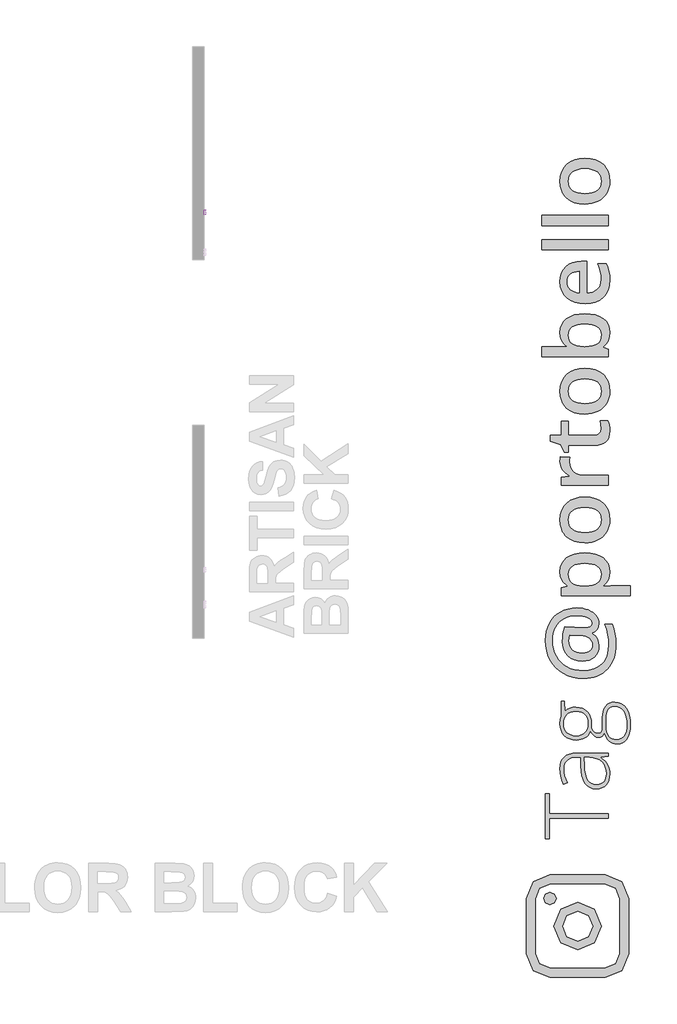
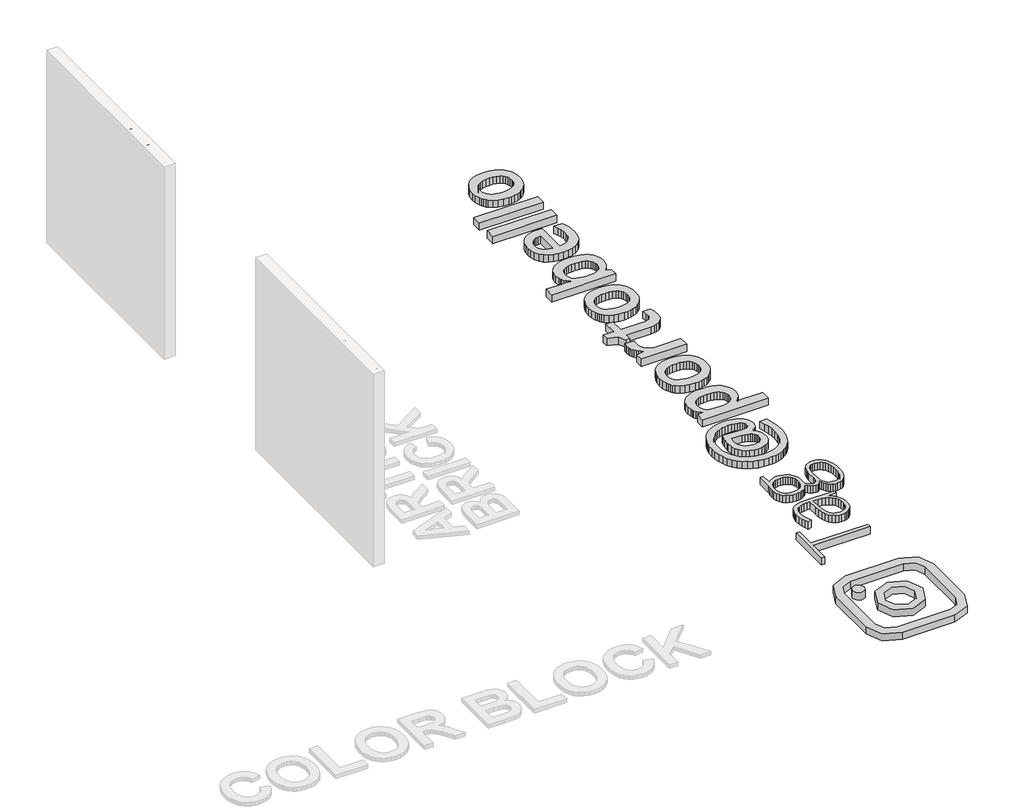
# One storey, part 4 of 9: 4 proxies.
"""IFC4 building model written with IfcOpenShell, lengths in millimetres."""

from ifc_helpers import new_model, si_unit, frame, origin, origin_with_axes, place, context, project, spatial, polyline, outline, extrude, transform, mapped, element, save
from components import generic_models_d67f6705

model = new_model("IFC4")

# Units and contexts
model_context = context("Model", 3, world=origin())
ifc_project = project(units=[si_unit("LENGTHUNIT", "METRE", prefix="MILLI")], contexts=[model_context])

# Site, building, storey
site = spatial("IfcSite", under=ifc_project)
building = spatial("IfcBuilding", under=site)
storey = spatial("IfcBuildingStorey", under=building, Name="PORTOBELLO - SHOWROOM", Elevation=0.0)

# Proxies
placement = place(None, origin())
generic_models_shape = generic_models_d67f6705(model_context)
element("IfcBuildingElementProxy", 1, Name="Blks_Instagram1 : Único 2", ObjectType="Blks_Instagram1 : Único 2", at=placement, inside=storey, context=model_context, shape_type="MappedRepresentation", body=[
    mapped(generic_models_shape, transform((-14049.7127533, -9592.2294159, 0.0), x_axis=(-1.0, 0.0, 0.0), y_axis=(0.0, -1.0, 0.0), z_axis=(0.0, 0.0, 1.0))),
])
element("IfcBuildingElementProxy", 2, Name="10mm Arial Narrow", ObjectType="10mm Arial Narrow", at=placement, inside=storey, context=model_context, shape_type="SweptSolid", body=[
    extrude(outline(polyline([(-576.4830429, 2548.8308244), (-576.4830429, 2649.5494281), (-545.1861582, 2649.5494281), (-528.8904567, 2647.6711074), (-517.4174705, 2638.1906642), (-513.1277921, 2621.1715554), (-514.9141005, 2609.0957299), (-520.2730257, 2599.4693361), (-530.0168145, 2593.1680777), (-544.9577138, 2591.0676582), (-566.7360812, 2591.0676582), (-566.7360812, 2548.8308244), (-576.4830429, 2548.8308244)]), holes=[polyline([(-566.7360812, 2602.4391135), (-543.7647263, 2602.4391135), (-527.9005309, 2606.9699277), (-522.8747538, 2620.6385184), (-525.3495682, 2630.8042949), (-531.3271971, 2636.6042447), (-543.9931707, 2638.1779729), (-566.7360812, 2638.1779729), (-566.7360812, 2602.4391135)])]), frame((-18784.5594677, 0.0, 0.0), z_axis=(1.0, 0.0, 0.0), x_axis=(0.0, 1.0, 0.0)), (0.0, 0.0, 1.0), 20.0),
    extrude(outline(polyline([(-505.0053241, 2585.3819306), (-503.0508552, 2601.9727061), (-497.1874486, 2613.9247909), (-488.3288819, 2621.1493455), (-477.3889327, 2623.5575304), (-466.5758971, 2621.1493455), (-457.6919477, 2613.9247909), (-451.752393, 2602.1630765), (-449.7725414, 2586.143412), (-451.7174917, 2568.9815254), (-457.5523428, 2556.8390702), (-466.401391, 2549.6145156), (-477.3889327, 2547.2063308), (-488.2495609, 2549.6208613), (-497.1239918, 2556.8644529), (-503.034991, 2568.8228834), (-505.0053241, 2585.3819306)]), holes=[polyline([(-495.2583624, 2585.4073133), (-493.9543256, 2572.8555619), (-490.042215, 2563.9843038), (-484.2010182, 2558.7110453), (-477.1097229, 2556.9532924), (-470.3896497, 2558.7269095), (-464.6975764, 2564.0477606), (-460.8140214, 2572.9348829), (-459.519503, 2585.4073133), (-460.8235399, 2597.9209906), (-464.7356505, 2606.7795573), (-470.5768472, 2612.0528159), (-477.6681426, 2613.8105687), (-484.4358083, 2612.0432974), (-490.1183631, 2606.7414833), (-493.9733626, 2597.873398), (-495.2583624, 2585.4073133)])]), frame((-18784.5594677, 0.0, 0.0), z_axis=(1.0, 0.0, 0.0), x_axis=(0.0, 1.0, 0.0)), (0.0, 0.0, 1.0), 20.0),
    extrude(outline(polyline([(-378.2948226, 2556.9532924), (-376.670329, 2547.2063308), (-384.0313156, 2547.2063308), (-392.3060799, 2549.3257873), (-396.6211411, 2555.1257371), (-397.7887459, 2569.7715623), (-397.7887459, 2612.1860751), (-405.9112139, 2612.1860751), (-405.9112139, 2615.4350623), (-407.5357075, 2610.5615815), (-415.0997559, 2612.1860751), (-421.1789156, 2609.8635569), (-425.0497793, 2603.3782738), (-427.0296308, 2587.9709673), (-427.0296308, 2548.8308244), (-436.7765925, 2548.8308244), (-436.7765925, 2621.9330368), (-427.0296308, 2621.9330368), (-427.0296308, 2612.2368406), (-420.7854835, 2621.3238517), (-414.3890399, 2623.5575304), (-405.9112139, 2621.9330368), (-397.7887459, 2621.9330368), (-397.7887459, 2638.1779729), (-388.0417842, 2646.3004409), (-388.0417842, 2621.9330368), (-378.2948226, 2621.9330368), (-378.2948226, 2612.1860751), (-388.0417842, 2612.1860751), (-388.0417842, 2567.5378836), (-387.178772, 2559.5423291), (-382.5591183, 2556.9532924), (-378.2948226, 2556.9532924)])), frame((-18784.5594677, 0.0, 0.0), z_axis=(1.0, 0.0, 0.0), x_axis=(0.0, 1.0, 0.0)), (0.0, 0.0, 1.0), 20.0),
    extrude(outline(polyline([(-371.7968481, 2585.3819306), (-369.8423793, 2601.9727061), (-363.9789726, 2613.9247909), (-355.1204059, 2621.1493455), (-344.1804568, 2623.5575304), (-333.3674212, 2621.1493455), (-324.4834718, 2613.9247909), (-318.543917, 2602.1630765), (-316.5640654, 2586.143412), (-318.5090158, 2568.9815254), (-324.3438669, 2556.8390702), (-333.1929151, 2549.6145156), (-344.1804568, 2547.2063308), (-355.041085, 2549.6208613), (-363.9155159, 2556.8644529), (-369.8265151, 2568.8228834), (-371.7968481, 2585.3819306)]), holes=[polyline([(-362.0498865, 2585.4073133), (-360.7458496, 2572.8555619), (-356.833739, 2563.9843038), (-350.9925423, 2558.7110453), (-343.9012469, 2556.9532924), (-337.1811738, 2558.7269095), (-331.4891005, 2564.0477606), (-327.6055454, 2572.9348829), (-326.3110271, 2585.4073133), (-327.6150639, 2597.9209906), (-331.5271745, 2606.7795573), (-337.3683713, 2612.0528159), (-344.4596666, 2613.8105687), (-351.2273324, 2612.0432974), (-356.9098872, 2606.7414833), (-360.7648867, 2597.873398), (-362.0498865, 2585.4073133)])]), frame((-18784.5594677, 0.0, 0.0), z_axis=(1.0, 0.0, 0.0), x_axis=(0.0, 1.0, 0.0)), (0.0, 0.0, 1.0), 20.0),
    extrude(outline(polyline([(-293.8211549, 2548.8308244), (-303.5681166, 2548.8308244), (-303.5681166, 2649.5494281), (-293.8211549, 2649.5494281), (-293.8211549, 2614.140544), (-286.4220942, 2621.2223208), (-277.2208608, 2623.5575304), (-264.3391342, 2619.3566915), (-255.0617527, 2606.6272611), (-251.5843211, 2585.9403503), (-253.5165801, 2569.4860068), (-259.3133571, 2557.2832677), (-267.6864794, 2549.725565), (-277.3477744, 2547.2063308), (-286.6886127, 2549.8207502), (-293.8211549, 2557.5878602), (-293.8211549, 2548.8308244)]), holes=[polyline([(-293.8211549, 2585.9403503), (-291.7397725, 2568.692797), (-285.8509831, 2559.9611439), (-277.3985398, 2556.9532924), (-271.4558122, 2558.7427737), (-266.2174549, 2564.1112174), (-261.3312827, 2585.5342269), (-266.0397759, 2606.9699277), (-271.2844789, 2612.1004085), (-277.6016015, 2613.8105687), (-283.5792304, 2612.0210875), (-288.8715259, 2606.6526438), (-293.8211549, 2585.9403503)])]), frame((-18784.5594677, 0.0, 0.0), z_axis=(1.0, 0.0, 0.0), x_axis=(0.0, 1.0, 0.0)), (0.0, 0.0, 1.0), 20.0),
    extrude(outline(polyline([(-199.6005256, 2571.5737349), (-189.8535639, 2569.9492413), (-193.5530943, 2560.0626747), (-199.3720812, 2552.9428238), (-207.0757345, 2548.640454), (-216.4292641, 2547.2063308), (-228.0228181, 2549.6208613), (-237.1669403, 2556.8644529), (-243.1064951, 2568.6705872), (-245.0863466, 2584.7727455), (-243.0969765, 2601.4396692), (-237.1288662, 2613.6201984), (-228.1148304, 2621.0731974), (-216.9876837, 2623.5575304), (-206.3047346, 2621.158864), (-197.5572172, 2613.962865), (-191.7223662, 2602.2233604), (-189.7774158, 2586.1941774), (-189.8535639, 2582.9451902), (-235.339385, 2582.9451902), (-229.3363734, 2563.5020323), (-223.4063372, 2558.5904774), (-216.3023505, 2556.9532924), (-206.1238827, 2560.608403), (-199.6005256, 2571.5737349)]), holes=[polyline([(-234.6794345, 2592.6921518), (-199.6005256, 2592.6921518), (-203.8648213, 2606.9572363), (-209.6901539, 2612.0972356), (-216.9115356, 2613.8105687), (-229.1206204, 2608.0994584), (-234.6794345, 2592.6921518)])]), frame((-18784.5594677, 0.0, 0.0), z_axis=(1.0, 0.0, 0.0), x_axis=(0.0, 1.0, 0.0)), (0.0, 0.0, 1.0), 20.0),
    extrude(outline(polyline([(-18764.5594677, -167.1106534), (-18764.5594677, -176.8576151), (-18784.5594677, -176.8576151), (-18784.5594677, -167.1106534), (-18764.5594677, -167.1106534)])), frame((0.0, 0.0, 2548.8308244), z_axis=(0.0, 0.0, 1.0), x_axis=(1.0, 0.0, 0.0)), (0.0, 0.0, 1.0), 100.7186038),
    extrude(outline(polyline([(-18764.5594677, -141.1187557), (-18764.5594677, -150.8657173), (-18784.5594677, -150.8657173), (-18784.5594677, -141.1187557), (-18764.5594677, -141.1187557)])), frame((0.0, 0.0, 2548.8308244), z_axis=(0.0, 0.0, 1.0), x_axis=(1.0, 0.0, 0.0)), (0.0, 0.0, 1.0), 100.7186038),
    extrude(outline(polyline([(-129.7473004, 2585.3819306), (-127.7928315, 2601.9727061), (-121.9294249, 2613.9247909), (-113.0708582, 2621.1493455), (-102.1309091, 2623.5575304), (-91.3178735, 2621.1493455), (-82.433924, 2613.9247909), (-76.4943693, 2602.1630765), (-74.5145177, 2586.143412), (-76.4594681, 2568.9815254), (-82.2943191, 2556.8390702), (-91.1433673, 2549.6145156), (-102.1309091, 2547.2063308), (-112.9915372, 2549.6208613), (-121.8659681, 2556.8644529), (-127.7769673, 2568.8228834), (-129.7473004, 2585.3819306)]), holes=[polyline([(-120.0003388, 2585.4073133), (-118.6963019, 2572.8555619), (-114.7841913, 2563.9843038), (-108.9429946, 2558.7110453), (-101.8516992, 2556.9532924), (-95.131626, 2558.7269095), (-89.4395527, 2564.0477606), (-85.5559977, 2572.9348829), (-84.2614794, 2585.4073133), (-85.5655162, 2597.9209906), (-89.4776268, 2606.7795573), (-95.3188236, 2612.0528159), (-102.4101189, 2613.8105687), (-109.1777847, 2612.0432974), (-114.8603394, 2606.7414833), (-118.7153389, 2597.873398), (-120.0003388, 2585.4073133)])]), frame((-18784.5594677, 0.0, 0.0), z_axis=(1.0, 0.0, 0.0), x_axis=(0.0, 1.0, 0.0)), (0.0, 0.0, 1.0), 20.0),
])
element("IfcBuildingElementProxy", 3, Name="80mm OpenSans Bold", ObjectType="80mm OpenSans Bold", at=placement, inside=storey, context=model_context, shape_type="SweptSolid", body=[
    extrude(outline(polyline([(-14059.8926934, -5560.8938135), (-14021.7870787, -5562.4411734), (-13985.3490072, -5567.083253), (-13950.5784789, -5574.8200523), (-13917.4754937, -5585.6515714), (-13886.9940065, -5599.292375), (-13860.0879723, -5615.4570276), (-13836.7573909, -5634.1455293), (-13817.0022625, -5655.3578802), (-13801.2807857, -5678.7034844), (-13790.0511595, -5703.7917464), (-13783.3133837, -5730.6226661), (-13781.0674585, -5759.1962435), (-13786.7761648, -5799.8181959), (-13793.9120477, -5817.9658728), (-13803.9022838, -5834.6713502), (-13816.3262315, -5849.3487346), (-13830.7632493, -5861.4121324), (-13847.2133372, -5870.8615437), (-13865.6764953, -5877.6969684), (-13865.6764953, -5884.4272327), (-13828.6600417, -5914.5932387), (-13802.2197177, -5951.2491424), (-13786.3555233, -5993.6137525), (-13781.0674585, -6040.9058774), (-13784.620377, -6083.5709457), (-13795.2791326, -6121.4286823), (-13813.0437253, -6154.4790873), (-13837.9141551, -6182.7221607), (-13868.8538411, -6205.3316423), (-13904.8262023, -6221.481272), (-13945.8312389, -6231.1710499), (-13991.8689508, -6234.4009758), (-14045.0124997, -6230.1194461), (-14092.9130526, -6217.2748568), (-14135.5706094, -6195.8672082), (-14172.9851702, -6165.8965), (-14203.4291001, -6128.7147944), (-14225.1747643, -6085.6741533), (-14238.2221628, -6036.7745768), (-14242.5712956, -5982.0160649), (-14240.7385004, -5937.6984764), (-14235.2401149, -5888.8740144), (-14226.4967805, -5840.6504689), (-14214.9291387, -5798.1356298), (-13963.7460607, -5810.3943255), (-13951.0066319, -5810.3943255), (-13913.1488952, -5806.7888267), (-13886.1076548, -5795.9723305), (-13876.6432206, -5787.8599584), (-13869.8829105, -5777.9448369), (-13864.4746624, -5752.7063458), (-13867.9374435, -5731.9521938), (-13878.3257867, -5713.4364555), (-13895.639692, -5697.159131), (-13919.8791595, -5683.1202204), (-13949.4818063, -5671.8154796), (-13982.8852498, -5663.7406647), (-14020.0894898, -5658.8957758), (-14061.0945263, -5657.2808128), (-14106.1857948, -5659.6995016), (-14148.437733, -5666.9555677), (-14187.850341, -5679.0490114), (-14224.4236187, -5695.9798325), (-14257.5641612, -5717.3724583), (-14286.6785634, -5742.851316), (-14311.7668254, -5772.4164055), (-14332.8289471, -5806.067727), (-14349.4968672, -5843.0691577), (-14361.4025245, -5882.6845749), (-14368.5459189, -5924.9139788), (-14370.9270503, -5969.7573692), (-14367.9374909, -6026.7317606), (-14358.9688129, -6079.8753095), (-14344.0210161, -6129.1880161), (-14323.0941005, -6174.6698802), (-14296.6162192, -6215.6598939), (-14265.0155252, -6251.4970489), (-14228.2920184, -6282.1813454), (-14186.4456988, -6307.7127833), (-14140.2577578, -6327.7984158), (-14090.5093868, -6342.1452961), (-14037.2005858, -6350.7534243), (-13980.3313548, -6353.6228004), (-13906.15573, -6348.2671325), (-13841.0689665, -6332.2001288), (-13811.9339078, -6320.149876), (-13785.0710644, -6305.4217893), (-13760.4804363, -6288.0158686), (-13738.1620236, -6267.932114), (-13718.3036127, -6245.3470446), (-13701.0929898, -6220.4371797), (-13686.5301551, -6193.2025192), (-13674.6151086, -6163.6430633), (-13658.7283798, -6097.5497647), (-13653.4328035, -6022.157284), (-13656.5275233, -5960.4431642), (-13665.8116825, -5897.4070281), (-13681.2852812, -5833.0488758), (-13702.9483194, -5767.3687073), (-13612.8108512, -5767.3687073), (-13592.1994168, -5826.5890239), (-13577.4769637, -5888.3932813), (-13568.6434918, -5952.7814794), (-13565.6990012, -6019.7536182), (-13567.3947123, -6069.3686609), (-13572.4818457, -6116.1781748), (-13580.9604013, -6160.1821601), (-13592.8303791, -6201.3806166), (-13608.0917792, -6239.7735445), (-13626.7446015, -6275.3609436), (-13648.7888461, -6308.1428141), (-13674.2245129, -6338.1191559), (-13702.6948078, -6364.9068847), (-13733.8429366, -6388.1229163), (-13767.6688994, -6407.7672508), (-13804.1726962, -6423.8398881), (-13843.3543269, -6436.3408282), (-13885.2137915, -6445.2700712), (-13929.7510901, -6450.6276169), (-13976.9662227, -6452.4134655), (-14046.0340577, -6448.5525773), (-14111.1809128, -6436.9699126), (-14172.4067881, -6417.6654715), (-14229.7116835, -6390.639254), (-14281.8111401, -6356.7625889), (-14327.420699, -6316.906805), (-14366.5403602, -6271.0719024), (-14399.1701237, -6219.2578811), (-14424.8818365, -6162.6365282), (-14443.2473456, -6102.3796307), (-14454.2666511, -6038.4871887), (-14457.9397529, -5970.9592021), (-14454.875079, -5912.7379091), (-14445.6810573, -5857.7765879), (-14430.3576877, -5806.0752384), (-14408.9049702, -5757.6338607), (-14381.7886152, -5713.4514784), (-14349.4743329, -5674.5271151), (-14311.9621232, -5640.8607707), (-14269.2519862, -5612.4524453), (-14222.1852049, -5589.8955439), (-14171.6030623, -5573.7834715), (-14117.5055585, -5564.116228), (-14059.8926934, -5560.8938135)]), holes=[polyline([(-13989.9460181, -6129.120413), (-13960.5386691, -6127.5317401), (-13935.0523, -6122.7657215), (-13913.4869107, -6114.8223571), (-13895.8425013, -6103.7016469), (-13882.1190718, -6089.403591), (-13872.3166221, -6071.9281894), (-13866.4351523, -6051.275442), (-13864.4746624, -6027.4453488), (-13866.9384199, -6002.161789), (-13874.3296922, -5979.9128573), (-13886.6484796, -5960.6985537), (-13903.8947818, -5944.5188781), (-13926.068599, -5931.3738307), (-13953.1699311, -5921.2634113), (-13985.1987781, -5914.1876201), (-14022.1551401, -5910.1464569), (-14150.7512614, -5903.4161926), (-14157.6017089, -5939.7115465), (-14159.8851915, -5978.4105662), (-14157.0233268, -6012.0243303), (-14148.437733, -6041.7171146), (-14134.1284099, -6067.4889191), (-14114.0953576, -6089.3397437), (-14089.1648362, -6106.7437865), (-14060.1631058, -6119.1752456), (-14027.0901665, -6126.6341211), (-13989.9460181, -6129.120413)])]), origin_with_axes(), (0.0, 0.0, 1.0), 100.0),
    extrude(outline(polyline([(-13642.6163074, -5102.2743754), (-13647.8142347, -5155.8310544), (-13663.4080167, -5203.0480648), (-13689.3976534, -5243.9254066), (-13725.7831447, -5278.4630799), (-13725.7831447, -5286.1548105), (-13631.7998112, -5278.4630799), (-13381.0974663, -5278.4630799), (-13381.0974663, -5407.2995677), (-14257.9547568, -5407.2995677), (-14257.9547568, -5302.9804712), (-14180.7970841, -5284.9529776), (-14180.7970841, -5278.4630799), (-14202.4864124, -5262.632687), (-14221.2838302, -5244.9469646), (-14237.1893376, -5225.4059127), (-14250.2029346, -5204.0095311), (-14260.3246211, -5180.7578201), (-14267.5543972, -5155.6507795), (-14273.3382181, -5099.8707096), (-14268.177848, -5047.0651761), (-14252.6967379, -5000.4190363), (-14226.8948876, -4959.9322902), (-14190.7722972, -4925.6049377), (-14145.3355018, -4898.2632391), (-14091.5910364, -4878.7334543), (-14029.538901, -4867.0155834), (-13959.1790956, -4863.1096265), (-13888.6465268, -4867.0831865), (-13826.3164675, -4879.0038667), (-13772.1889179, -4898.871667), (-13726.2638778, -4926.6865874), (-13689.6680658, -4961.5021844), (-13663.5282, -5002.3720148), (-13647.8442805, -5049.2960785), (-13642.6163074, -5102.2743754)]), holes=[polyline([(-14165.6539894, -5133.7623976), (-14162.8597279, -5168.8484071), (-14154.4769434, -5198.8716955), (-14140.5056358, -5223.8322627), (-14120.9458052, -5243.7301088), (-14095.2566268, -5258.9257836), (-14062.8972757, -5269.7798371), (-14023.867752, -5276.2922692), (-13978.1680556, -5278.4630799), (-13959.1790956, -5278.4630799), (-13907.8307846, -5276.3148035), (-13864.1141125, -5269.8699746), (-13828.0290794, -5259.1285929), (-13799.5756853, -5244.0906587), (-13778.0178075, -5224.1702782), (-13762.6193233, -5198.781558), (-13753.3802329, -5167.924498), (-13750.300536, -5131.5990984), (-13753.7107369, -5100.6744353), (-13763.9413395, -5073.520523), (-13780.9923439, -5050.1373615), (-13804.8637501, -5030.5249507), (-13835.0297561, -5015.0137947), (-13870.9645601, -5003.9343976), (-13912.6681621, -4997.2867593), (-13960.140562, -4995.0708799), (-14007.7707024, -4997.2717364), (-14049.2264264, -5003.8743059), (-14084.5077337, -5014.8785885), (-14113.6146245, -5030.2845841), (-14136.3818466, -5049.9570866), (-14152.6441482, -5073.7608896), (-14162.4015291, -5101.6959933), (-14165.6539894, -5133.7623976)])]), origin_with_axes(), (0.0, 0.0, 1.0), 100.0),
    extrude(outline(polyline([(-13959.1790956, -4154.9896764), (-13888.6465268, -4159.797008), (-13826.3164675, -4174.2190029), (-13772.1889179, -4198.2556611), (-13726.2638778, -4231.9069826), (-13706.6589785, -4252.0789968), (-13689.6680658, -4274.1363864), (-13675.2911396, -4298.0791514), (-13663.5282, -4323.9072918), (-13647.8442805, -4381.2196986), (-13642.6163074, -4446.073607), (-13645.0274846, -4487.7246287), (-13652.2610165, -4526.8668243), (-13664.3169028, -4563.5001937), (-13681.1951437, -4597.6247368), (-13702.5727466, -4628.6019801), (-13728.1267188, -4655.7934496), (-13757.8570604, -4679.1991455), (-13791.7637714, -4698.8190678), (-13829.2234009, -4714.3302238), (-13869.6124981, -4725.4096209), (-13912.931063, -4732.0572592), (-13959.1790956, -4734.2731386), (-14029.1483053, -4729.5033642), (-14090.9901199, -4715.1940412), (-14144.7045395, -4691.3451694), (-14190.2915641, -4657.9567489), (-14209.7556236, -4637.8992843), (-14226.6244752, -4615.8850856), (-14240.8981189, -4591.9141526), (-14252.5765546, -4565.9864855), (-14268.1478022, -4508.2609486), (-14273.3382181, -4442.7084748), (-14268.0201075, -4379.8150564), (-14252.0657756, -4323.8171543), (-14225.4752225, -4274.7147685), (-14188.2484481, -4232.507899), (-14142.0229499, -4198.5936766), (-14088.436225, -4174.369232), (-14027.4882736, -4159.8345653), (-13959.1790956, -4154.9896764)]), holes=[polyline([(-13959.1790956, -4601.5907854), (-13910.2231832, -4599.127028), (-13867.7947258, -4591.7357556), (-13831.8937234, -4579.4169683), (-13802.5201759, -4562.170666), (-13779.6740835, -4539.9968488), (-13763.355446, -4512.8955167), (-13753.5642635, -4480.8666697), (-13750.300536, -4443.9103077), (-13753.5642635, -4407.2919613), (-13763.355446, -4375.556061), (-13779.6740835, -4348.702607), (-13802.5201759, -4326.7315991), (-13831.8937234, -4309.6430374), (-13867.7947258, -4297.4369219), (-13910.2231832, -4290.1132527), (-13959.1790956, -4287.6720296), (-14007.5716489, -4290.1282756), (-14049.5118617, -4297.4970136), (-14084.999734, -4309.7782436), (-14114.035266, -4326.9719657), (-14136.6184575, -4349.0781798), (-14152.7493086, -4376.0968858), (-14162.4278192, -4408.028084), (-14165.6539894, -4444.8717741), (-14162.3189031, -4483.2628241), (-14152.3136441, -4515.9902365), (-14135.6382125, -4543.0540113), (-14112.2926083, -4564.4541485), (-14082.7124958, -4580.7014272), (-14047.3335395, -4592.3066262), (-14006.1557395, -4599.2697456), (-13959.1790956, -4601.5907854)])]), origin_with_axes(), (0.0, 0.0, 1.0), 100.0),
    extrude(outline(polyline([(-14273.3382181, -3704.3023355), (-14271.9561102, -3669.629456), (-14267.8097867, -3641.5666576), (-14147.6264958, -3653.8253533), (-14152.674194, -3681.2271436), (-14154.3567601, -3709.5904003), (-14151.2169716, -3745.6453875), (-14141.7976062, -3778.0948761), (-14126.0986638, -3806.9388659), (-14104.1201445, -3832.177357), (-14077.1239728, -3852.683631), (-14046.3720732, -3867.3309696), (-14011.8644458, -3876.1193727), (-13973.6010905, -3879.0488404), (-13657.9997686, -3879.0488404), (-13657.9997686, -4007.8853283), (-14257.9547568, -4007.8853283), (-14257.9547568, -3906.9313639), (-14155.7989596, -3889.8653366), (-14155.7989596, -3883.3754389), (-14181.4430693, -3867.5788476), (-14204.2929175, -3849.5137967), (-14224.3485041, -3829.1802862), (-14241.6098293, -3806.578316), (-14255.4909994, -3782.3839173), (-14265.4061209, -3757.2731209), (-14271.3551938, -3731.245927), (-14273.3382181, -3704.3023355)])), origin_with_axes(), (0.0, 0.0, 1.0), 100.0),
    extrude(outline(polyline([(-13750.300536, -3285.3433833), (-13753.9661264, -3237.4503419), (-13764.9628975, -3189.4371172), (-13665.2107661, -3189.4371172), (-13656.3772942, -3214.1948751), (-13649.1062051, -3245.2021642), (-13644.2387818, -3279.9351352), (-13642.6163074, -3315.8699392), (-13645.6509355, -3359.2485958), (-13654.7548197, -3396.8434315), (-13669.9279602, -3428.6544463), (-13691.1703569, -3454.6816402), (-13718.4820098, -3474.9250133), (-13751.8629188, -3489.3845655), (-13791.313084, -3498.0602968), (-13836.8325055, -3500.9522072), (-14165.6539894, -3500.9522072), (-14165.6539894, -3584.5997777), (-14219.7364703, -3584.5997777), (-14264.4446546, -3494.9430427), (-14396.405908, -3450.9559582), (-14396.405908, -3371.3946196), (-14257.9547568, -3371.3946196), (-14257.9547568, -3195.6866483), (-14165.6539894, -3195.6866483), (-14165.6539894, -3371.3946196), (-13841.159104, -3371.3946196), (-13819.4735314, -3369.9148629), (-13800.807564, -3365.4755925), (-13785.1612018, -3358.0768087), (-13772.5344448, -3347.7185113), (-13762.8071097, -3334.9415252), (-13755.8590132, -3320.2866752), (-13750.300536, -3285.3433833)])), origin_with_axes(), (0.0, 0.0, 1.0), 100.0),
    extrude(outline(polyline([(-13959.1790956, -2524.3427853), (-13888.6465268, -2529.1501169), (-13826.3164675, -2543.5721118), (-13772.1889179, -2567.60877), (-13726.2638778, -2601.2600914), (-13706.6589785, -2621.4321057), (-13689.6680658, -2643.4894953), (-13675.2911396, -2667.4322603), (-13663.5282, -2693.2604006), (-13647.8442805, -2750.5728075), (-13642.6163074, -2815.4267158), (-13645.0274846, -2857.0777376), (-13652.2610165, -2896.2199332), (-13664.3169028, -2932.8533025), (-13681.1951437, -2966.9778457), (-13702.5727466, -2997.9550889), (-13728.1267188, -3025.1465585), (-13757.8570604, -3048.5522544), (-13791.7637714, -3068.1721766), (-13829.2234009, -3083.6833326), (-13869.6124981, -3094.7627298), (-13912.931063, -3101.410368), (-13959.1790956, -3103.6262475), (-14029.1483053, -3098.8564731), (-14090.9901199, -3084.54715), (-14144.7045395, -3060.6982782), (-14190.2915641, -3027.3098577), (-14209.7556236, -3007.2523932), (-14226.6244752, -2985.2381945), (-14240.8981189, -2961.2672615), (-14252.5765546, -2935.3395944), (-14268.1478022, -2877.6140574), (-14273.3382181, -2812.0615837), (-14268.0201075, -2749.1681653), (-14252.0657756, -2693.1702632), (-14225.4752225, -2644.0678774), (-14188.2484481, -2601.8610079), (-14142.0229499, -2567.9467855), (-14088.436225, -2543.7223409), (-14027.4882736, -2529.1876742), (-13959.1790956, -2524.3427853)]), holes=[polyline([(-13959.1790956, -2970.9438943), (-13910.2231832, -2968.4801368), (-13867.7947258, -2961.0888644), (-13831.8937234, -2948.7700771), (-13802.5201759, -2931.5237749), (-13779.6740835, -2909.3499577), (-13763.355446, -2882.2486256), (-13753.5642635, -2850.2197786), (-13750.300536, -2813.2634166), (-13753.5642635, -2776.6450702), (-13763.355446, -2744.9091699), (-13779.6740835, -2718.0557158), (-13802.5201759, -2696.084708), (-13831.8937234, -2678.9961463), (-13867.7947258, -2666.7900308), (-13910.2231832, -2659.4663615), (-13959.1790956, -2657.0251384), (-14007.5716489, -2659.4813844), (-14049.5118617, -2666.8501225), (-14084.999734, -2679.1313525), (-14114.035266, -2696.3250746), (-14136.6184575, -2718.4312886), (-14152.7493086, -2745.4499947), (-14162.4278192, -2777.3811928), (-14165.6539894, -2814.2248829), (-14162.3189031, -2852.6159329), (-14152.3136441, -2885.3433453), (-14135.6382125, -2912.4071202), (-14112.2926083, -2933.8072574), (-14082.7124958, -2950.054536), (-14047.3335395, -2961.6597351), (-14006.1557395, -2968.6228545), (-13959.1790956, -2970.9438943)])]), origin_with_axes(), (0.0, 0.0, 1.0), 100.0),
    extrude(outline(polyline([(-14273.3382181, -2069.3288458), (-14268.177848, -2016.5233124), (-14252.6967379, -1969.8771726), (-14226.8948876, -1929.3904265), (-14190.7722972, -1895.063074), (-14145.3355018, -1867.7213753), (-14091.5910364, -1848.1915906), (-14029.538901, -1836.4737197), (-13959.1790956, -1832.5677627), (-13888.4512289, -1836.5187884), (-13826.0160093, -1848.3718655), (-13771.8734367, -1868.1269939), (-13726.0235113, -1895.7841738), (-13689.5328596, -1930.4720761), (-13663.4681083, -1971.3193721), (-13647.8292576, -2018.3260618), (-13642.6163074, -2071.4921451), (-13647.8142347, -2125.1539845), (-13663.4080167, -2172.4461095), (-13689.3976534, -2213.36852), (-13725.7831447, -2247.9212161), (-13725.7831447, -2256.5744131), (-13657.9997686, -2280.1303381), (-13657.9997686, -2376.757704), (-14504.0901366, -2376.757704), (-14504.0901366, -2247.9212161), (-14304.1051406, -2247.9212161), (-14238.1245138, -2250.0845154), (-14182.4796502, -2253.2092809), (-14182.4796502, -2247.9212161), (-14203.774627, -2231.8805025), (-14222.2302736, -2214.044551), (-14237.84659, -2194.4133616), (-14250.6235761, -2172.9869343), (-14260.561232, -2149.765269), (-14267.6595576, -2124.7483659), (-14273.3382181, -2069.3288458)]), holes=[polyline([(-14165.6539894, -2103.2205339), (-14162.8071477, -2138.7647422), (-14154.2666226, -2168.960794), (-14140.0324141, -2193.8086894), (-14120.1045222, -2213.3084284), (-14093.5064576, -2228.0909731), (-14059.2617311, -2238.787286), (-14017.3703428, -2245.397367), (-13967.8322926, -2247.9212161), (-13959.1790956, -2247.9212161), (-13907.8307846, -2245.7729398), (-13864.1141125, -2239.3281108), (-13828.0290794, -2228.5867292), (-13799.5756853, -2213.5487949), (-13778.0178075, -2193.6284145), (-13762.6193233, -2168.2396943), (-13753.3802329, -2137.3826343), (-13750.300536, -2101.0572346), (-13753.6731796, -2069.5466781), (-13763.7911104, -2042.0772846), (-13780.6543284, -2018.6490544), (-13804.2628336, -1999.2619872), (-13834.2410533, -1984.0663124), (-13870.2134145, -1973.2122589), (-13912.1799174, -1966.6998269), (-13960.140562, -1964.5290162), (-14008.3077715, -1966.6960711), (-14050.0526865, -1973.197236), (-14085.3753068, -1984.0325108), (-14114.2756326, -1999.2018956), (-14136.7536637, -2018.7053903), (-14152.8094002, -2042.5429949), (-14162.4428421, -2070.7147094), (-14165.6539894, -2103.2205339)])]), origin_with_axes(), (0.0, 0.0, 1.0), 100.0),
    extrude(outline(polyline([(-13642.6163074, -1403.7537808), (-13647.7917003, -1470.5681791), (-13663.3178792, -1529.6758238), (-13674.9625134, -1556.3396136), (-13689.194844, -1581.076715), (-13706.0148712, -1603.8871281), (-13725.4225948, -1624.7708528), (-13770.7392069, -1659.6315186), (-13823.8827559, -1684.5319942), (-13884.8532417, -1699.4722795), (-13953.6506643, -1704.4523746), (-14024.1832331, -1699.8328294), (-14086.7536589, -1685.9741937), (-14141.3619418, -1662.8764674), (-14188.0080815, -1630.5396507), (-14225.3400163, -1590.1205077), (-14252.0056839, -1542.7758025), (-14268.0050846, -1488.5055352), (-14273.3382181, -1427.3097058), (-14268.8463676, -1370.5907039), (-14255.3708161, -1320.1362561), (-14232.9115636, -1275.9463623), (-14201.4686101, -1238.0210226), (-14162.1536511, -1207.5770927), (-14116.0783819, -1185.8314285), (-14063.2428027, -1172.78403), (-14003.6469133, -1168.4348971), (-13934.9020709, -1168.4348971), (-13934.9020709, -1571.7700215), (-13893.0031711, -1567.8039729), (-13856.242107, -1558.5498595), (-13824.6188785, -1544.0076813), (-13798.1334858, -1524.1774383), (-13777.2065703, -1499.4196803), (-13762.2587735, -1470.0949573), (-13753.2900954, -1436.2032693), (-13750.300536, -1397.7446162), (-13752.8243851, -1345.9756637), (-13760.3959325, -1297.8723015), (-13773.856461, -1249.8891226), (-13794.0472539, -1198.4807199), (-13686.1226587, -1198.4807199), (-13665.8116825, -1245.8629823), (-13652.4713372, -1293.7860696), (-13645.0800648, -1345.3747472), (-13642.6163074, -1403.7537808)]), holes=[polyline([(-14181.0374507, -1427.5500724), (-14178.5812047, -1456.5668257), (-14171.2124666, -1482.5639738), (-14158.9312366, -1505.5415167), (-14141.7375145, -1525.4994545), (-14119.8416212, -1542.0922601), (-14093.4538774, -1554.9744066), (-14062.5742831, -1564.1458939), (-14027.2028383, -1569.6067222), (-14027.2028383, -1295.1080858), (-14062.7695809, -1297.8197213), (-14093.7543356, -1304.7527949), (-14120.1571024, -1315.9073066), (-14141.9778811, -1331.2832563), (-14159.0664428, -1350.414934), (-14171.2725583, -1372.8366292), (-14178.5962276, -1398.548342), (-14181.0374507, -1427.5500724)])]), origin_with_axes(), (0.0, 0.0, 1.0), 100.0),
    extrude(outline(polyline([(-13657.9997686, -894.6573604), (-13657.9997686, -1023.4938483), (-14504.0901366, -1023.4938483), (-14504.0901366, -894.6573604), (-13657.9997686, -894.6573604)])), origin_with_axes(), (0.0, 0.0, 1.0), 100.0),
    extrude(outline(polyline([(-13657.9997686, -586.9881357), (-13657.9997686, -715.8246236), (-14504.0901366, -715.8246236), (-14504.0901366, -586.9881357), (-13657.9997686, -586.9881357)])), origin_with_axes(), (0.0, 0.0, 1.0), 100.0),
    extrude(outline(polyline([(-13959.1790956, 136.9960088), (-13888.6465268, 132.1886771), (-13826.3164675, 117.7666822), (-13772.1889179, 93.730024), (-13726.2638778, 60.0787026), (-13706.6589785, 39.9066884), (-13689.6680658, 17.8492987), (-13675.2911396, -6.0934662), (-13663.5282, -31.9216066), (-13647.8442805, -89.2340135), (-13642.6163074, -154.0879218), (-13645.0274846, -195.7389436), (-13652.2610165, -234.8811391), (-13664.3169028, -271.5145085), (-13681.1951437, -305.6390517), (-13702.5727466, -336.6162949), (-13728.1267188, -363.8077645), (-13757.8570604, -387.2134604), (-13791.7637714, -406.8333826), (-13829.2234009, -422.3445386), (-13869.6124981, -433.4239357), (-13912.931063, -440.071574), (-13959.1790956, -442.2874534), (-14029.1483053, -437.5176791), (-14090.9901199, -423.208356), (-14144.7045395, -399.3594842), (-14190.2915641, -365.9710637), (-14209.7556236, -345.9135992), (-14226.6244752, -323.8994004), (-14240.8981189, -299.9284675), (-14252.5765546, -274.0008003), (-14268.1478022, -216.2752634), (-14273.3382181, -150.7227897), (-14268.0201075, -87.8293713), (-14252.0657756, -31.8314691), (-14225.4752225, 17.2709167), (-14188.2484481, 59.4777861), (-14142.0229499, 93.3920085), (-14088.436225, 117.6164531), (-14027.4882736, 132.1511199), (-13959.1790956, 136.9960088)]), holes=[polyline([(-13959.1790956, -309.6051003), (-13910.2231832, -307.1413428), (-13867.7947258, -299.7500704), (-13831.8937234, -287.4312831), (-13802.5201759, -270.1849808), (-13779.6740835, -248.0111637), (-13763.355446, -220.9098316), (-13753.5642635, -188.8809845), (-13750.300536, -151.9246226), (-13753.5642635, -115.3062761), (-13763.355446, -83.5703759), (-13779.6740835, -56.7169218), (-13802.5201759, -34.7459139), (-13831.8937234, -17.6573523), (-13867.7947258, -5.4512368), (-13910.2231832, 1.8724325), (-13959.1790956, 4.3136556), (-14007.5716489, 1.8574096), (-14049.5118617, -5.5113284), (-14084.999734, -17.7925585), (-14114.035266, -34.9862805), (-14136.6184575, -57.0924946), (-14152.7493086, -84.1112007), (-14162.4278192, -116.0423988), (-14165.6539894, -152.8860889), (-14162.3189031, -191.2771389), (-14152.3136441, -224.0045513), (-14135.6382125, -251.0683261), (-14112.2926083, -272.4684634), (-14082.7124958, -288.715742), (-14047.3335395, -300.320941), (-14006.1557395, -307.2840605), (-13959.1790956, -309.6051003)])]), origin_with_axes(), (0.0, 0.0, 1.0), 100.0),
])
element("IfcBuildingElementProxy", 4, Name="80mm OpenSans Light", ObjectType="80mm OpenSans Light", at=placement, inside=storey, context=model_context, shape_type="SweptSolid", body=[
    extrude(outline(polyline([(-13657.9997686, -8170.7334761), (-13657.9997686, -8227.2196228), (-14411.7893692, -8227.2196228), (-14411.7893692, -8485.8540648), (-14457.9397529, -8485.8540648), (-14457.9397529, -7912.3394006), (-14411.7893692, -7912.3394006), (-14411.7893692, -8170.7334761), (-13657.9997686, -8170.7334761)])), origin_with_axes(), (0.0, 0.0, 1.0), 100.0),
    extrude(outline(polyline([(-13657.9997686, -7440.7401671), (-13753.6656682, -7454.4410622), (-13753.6656682, -7458.7676607), (-13725.4901979, -7481.6400432), (-13701.7765323, -7504.8279069), (-13682.5246714, -7528.3312518), (-13667.7346152, -7552.1500777), (-13656.7453555, -7577.2158053), (-13648.8958843, -7604.4598551), (-13644.1862016, -7633.882227), (-13642.6163074, -7665.4829211), (-13645.5082178, -7707.3667979), (-13654.1839491, -7744.3231599), (-13668.6435013, -7776.3520069), (-13688.8868744, -7803.453339), (-13714.2380373, -7825.0112168), (-13744.0209591, -7840.409701), (-13778.2356397, -7849.6487915), (-13816.8820792, -7852.7284883), (-13859.1039716, -7848.1389889), (-13896.3532803, -7834.3704906), (-13928.6300054, -7811.4229935), (-13955.9341468, -7779.2964976), (-13977.8300401, -7738.4867588), (-13993.8820209, -7689.4895334), (-14004.0900892, -7632.3048213), (-14008.4542449, -7566.9326225), (-14011.8193771, -7452.277763), (-14052.2009628, -7452.277763), (-14092.8229151, -7454.4560851), (-14128.1568027, -7460.9910516), (-14158.2026254, -7471.8826623), (-14182.9603833, -7487.1309173), (-14202.3098932, -7507.2315727), (-14216.1309716, -7532.6803846), (-14224.4236187, -7563.4773529), (-14227.1878344, -7599.6224776), (-14224.3034354, -7641.8218357), (-14215.6502384, -7684.7723393), (-14201.2282435, -7728.4739884), (-14181.0374507, -7772.9267831), (-14228.1493007, -7793.3579426), (-14247.9194521, -7743.9926559), (-14262.0409887, -7694.9278273), (-14270.5139108, -7646.163457), (-14273.3382181, -7597.699545), (-14270.1007807, -7551.3163061), (-14260.3884685, -7511.1976213), (-14244.2012815, -7477.3434906), (-14221.5392197, -7449.7539139), (-14192.0267103, -7428.3537766), (-14155.2881806, -7413.0679643), (-14111.3236305, -7403.8964769), (-14060.13306, -7400.8393145), (-13657.9997686, -7400.8393145), (-13657.9997686, -7440.7401671)]), holes=[polyline([(-13688.7666911, -7662.5985221), (-13692.3346325, -7616.8387341), (-13703.0384569, -7576.1867359), (-13720.8781641, -7540.6425276), (-13745.8537543, -7510.2061092), (-13777.169013, -7485.8089011), (-13814.027726, -7468.382324), (-13856.4298934, -7457.9263777), (-13904.375515, -7454.4410622), (-13965.6689933, -7454.4410622), (-13961.1020283, -7559.9619916), (-13956.1970477, -7618.9719875), (-13947.7316372, -7668.8480532), (-13935.7057966, -7709.5901888), (-13920.1195261, -7741.1983943), (-13900.3418633, -7764.8594797), (-13875.7418459, -7781.760255), (-13846.319474, -7791.9007202), (-13812.0747476, -7795.2808753), (-13784.4926823, -7793.1100646), (-13760.1555659, -7786.5976325), (-13739.0633983, -7775.743579), (-13721.2161796, -7760.5479042), (-13707.0195284, -7741.4012036), (-13696.8790632, -7718.6940731), (-13690.7947841, -7692.4265126), (-13688.7666911, -7662.5985221)])]), origin_with_axes(), (0.0, 0.0, 1.0), 100.0),
    extrude(outline(polyline([(-14257.9547568, -6744.6385461), (-14219.4961038, -6744.6385461), (-14211.8043731, -6867.9466025), (-14179.6553428, -6846.2835644), (-14145.9439297, -6830.8099657), (-14110.6701338, -6821.5258064), (-14073.8339552, -6818.4310867), (-14031.2440014, -6821.9915167), (-13992.8905087, -6832.6728067), (-13958.773477, -6850.4749566), (-13928.8929063, -6875.3979666), (-13904.6008586, -6906.3301411), (-13887.249396, -6942.1597847), (-13876.8385184, -6982.8868974), (-13873.3682259, -7028.5114792), (-13876.7333581, -7084.9976259), (-13858.435452, -7113.3909284), (-13837.1930554, -7134.1525919), (-13813.7873594, -7146.8619749), (-13788.9995557, -7151.0984359), (-13764.6624393, -7145.7202337), (-13755.3332113, -7138.9974808), (-13747.8968702, -7129.5856269), (-13738.1620236, -7100.7716829), (-13734.9170748, -7057.355469), (-13734.9170748, -6953.5171057), (-13732.4533173, -6908.1404019), (-13725.0620449, -6868.3972899), (-13712.7432576, -6834.2877696), (-13695.4969554, -6805.8118411), (-13673.4282986, -6783.3601001), (-13646.6424476, -6767.3231422), (-13615.1394025, -6757.7009675), (-13578.9191632, -6754.4935759), (-13534.2635591, -6759.2558388), (-13495.0011803, -6773.5426275), (-13461.1320266, -6797.353942), (-13432.6560981, -6830.6897824), (-13410.0991967, -6872.8140258), (-13393.9871243, -6922.9905498), (-13384.3198808, -6981.2193542), (-13381.0974663, -7047.5004392), (-13383.8541706, -7100.3435299), (-13392.1242833, -7146.8619749), (-13405.9078045, -7187.0557743), (-13425.2047341, -7220.924928), (-13449.4291787, -7247.7934049), (-13477.9952446, -7266.9851742), (-13510.902932, -7278.5002358), (-13548.1522407, -7282.3385896), (-13578.1830405, -7279.9649696), (-13605.5397621, -7272.8441096), (-13630.2224055, -7260.9760097), (-13652.2309706, -7244.3606697), (-13671.2649993, -7223.6741207), (-13687.0240334, -7199.5923938), (-13699.5080727, -7172.1154889), (-13708.7171174, -7141.2434061), (-13722.1175543, -7165.4603392), (-13740.2051396, -7184.2690242), (-13762.1385902, -7196.347445), (-13787.076623, -7200.3735852), (-13815.0643069, -7195.6113223), (-13841.3393789, -7181.3245336), (-13865.901839, -7157.5132191), (-13888.7516872, -7124.1773788), (-13901.5061389, -7148.807442), (-13917.415402, -7170.5380833), (-13936.4794766, -7189.3693026), (-13958.6983625, -7205.3011001), (-13983.3659829, -7217.9729259), (-14009.7762611, -7227.02423), (-14037.929197, -7232.4550124), (-14067.8247906, -7234.2652733), (-14112.0372188, -7230.7348891), (-14151.652636, -7220.1437366), (-14186.6710424, -7202.4918157), (-14217.0924379, -7177.7791265), (-14241.6999668, -7147.0572728), (-14259.276773, -7111.3778583), (-14269.8228568, -7070.7408831), (-14273.3382181, -7025.1463471), (-14269.4923528, -6973.287257), (-14257.9547568, -6934.5281457), (-14257.9547568, -6744.6385461)]), holes=[polyline([(-13554.882505, -7224.8909766), (-13524.9681327, -7222.055402), (-13499.0423435, -7213.5486785), (-13477.1051371, -7199.3708059), (-13459.1565138, -7179.5217842), (-13445.1964734, -7154.0016136), (-13435.225016, -7122.8102938), (-13429.2421415, -7085.9478251), (-13427.24785, -7043.4142073), (-13429.677806, -6988.7120313), (-13436.9676737, -6941.3034787), (-13449.1174533, -6901.1885497), (-13466.1271447, -6868.3672441), (-13487.9967479, -6842.8395619), (-13514.7262629, -6824.6055033), (-13546.3156898, -6813.6650681), (-13582.7650285, -6810.0182563), (-13608.7321308, -6812.3017389), (-13630.8683907, -6819.1521864), (-13649.1738082, -6830.5695991), (-13663.6483833, -6846.5539768), (-13674.6376429, -6867.6461443), (-13682.4871141, -6894.3869266), (-13687.1967968, -6926.7763235), (-13688.7666911, -6964.814335), (-13688.7666911, -7061.9224341), (-13686.6747507, -7100.1181862), (-13680.3989294, -7133.2211714), (-13669.9392274, -7161.2313897), (-13655.2956446, -7184.1488409), (-13636.4681809, -7201.9735253), (-13613.4568364, -7214.7054427), (-13586.2616111, -7222.3445931), (-13554.882505, -7224.8909766)]), polyline([(-14068.5458904, -7179.221326), (-14035.0823553, -7176.6148509), (-14005.5998918, -7168.7954255), (-13980.0984997, -7155.7630499), (-13958.5781792, -7137.5177241), (-13941.4896175, -7114.9157539), (-13929.283502, -7088.8134454), (-13921.9598327, -7059.2107986), (-13919.5186096, -7026.1078134), (-13921.9448098, -6991.254659), (-13929.2234104, -6960.7281031), (-13941.3544113, -6934.5281457), (-13958.3378126, -6912.6547868), (-13979.9182248, -6895.4084845), (-14005.8402583, -6883.0896972), (-14036.1039133, -6875.6984248), (-14070.7091896, -6873.2346673), (-14107.4326964, -6875.7735394), (-14139.2437112, -6883.3901554), (-14166.142234, -6896.0845155), (-14188.1282648, -6913.8566197), (-14205.2168265, -6936.180666), (-14217.422942, -6962.5308525), (-14224.7466113, -6992.9071793), (-14227.1878344, -7027.3096463), (-14224.5663363, -7060.7656699), (-14216.7018422, -7090.4659657), (-14203.5943521, -7116.4105336), (-14185.2438658, -7138.5993737), (-14162.2212542, -7156.3714778), (-14135.0973877, -7169.0658379), (-14103.8722664, -7176.682454), (-14068.5458904, -7179.221326)])]), origin_with_axes(), (0.0, 0.0, 1.0), 100.0),
])

save(model, "model.ifc")
